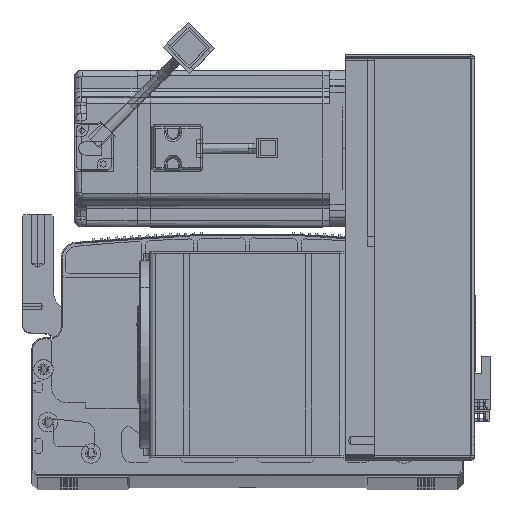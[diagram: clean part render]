
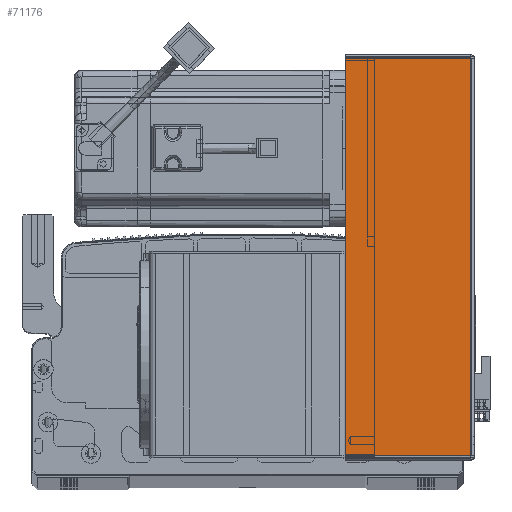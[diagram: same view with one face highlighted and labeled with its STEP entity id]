
A CAD part, top view. The second image highlights one B-rep face of the part: STEP entity #71176.
In plain terms, the highlighted planar face has unit normal (0, 0, 1) as drawn and (0, -1, 0) by its records, which use the part's own axes.
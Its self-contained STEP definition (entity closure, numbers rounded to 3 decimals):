
#68 = AXIS2_PLACEMENT_3D ( 'NONE', #84644, #45195, #20333 ) ;
#3171 = ORIENTED_EDGE ( 'NONE', *, *, #100996, .T. ) ;
#3195 = DIRECTION ( 'NONE',  ( 0., 0., 1. ) ) ;
#3884 = VERTEX_POINT ( 'NONE', #29059 ) ;
#9033 = EDGE_CURVE ( 'NONE', #39206, #18107, #48706, .T. ) ;
#15748 = CARTESIAN_POINT ( 'NONE',  ( 0., -1.5, -0.707 ) ) ;
#18107 = VERTEX_POINT ( 'NONE', #62029 ) ;
#19014 = ORIENTED_EDGE ( 'NONE', *, *, #9033, .F. ) ;
#20333 = DIRECTION ( 'NONE',  ( -1., 0., 0. ) ) ;
#23797 = DIRECTION ( 'NONE',  ( 1., 0., 0. ) ) ;
#25110 = DIRECTION ( 'NONE',  ( 1., 0., 0. ) ) ;
#27486 = LINE ( 'NONE', #56683, #45040 ) ;
#28062 = PLANE ( 'NONE',  #68 ) ;
#29059 = CARTESIAN_POINT ( 'NONE',  ( 64.5, -1.5, -203.293 ) ) ;
#32406 = LINE ( 'NONE', #56174, #62456 ) ;
#34433 = EDGE_CURVE ( 'NONE', #35962, #39206, #53545, .T. ) ;
#35962 = VERTEX_POINT ( 'NONE', #57520 ) ;
#39206 = VERTEX_POINT ( 'NONE', #52824 ) ;
#41572 = ORIENTED_EDGE ( 'NONE', *, *, #82913, .T. ) ;
#43106 = CARTESIAN_POINT ( 'NONE',  ( 0.737, -1.5, 0. ) ) ;
#45040 = VECTOR ( 'NONE', #25110, 1000. ) ;
#45195 = DIRECTION ( 'NONE',  ( 0., 1., 0. ) ) ;
#46177 = VECTOR ( 'NONE', #23797, 1000. ) ;
#48303 = ORIENTED_EDGE ( 'NONE', *, *, #34433, .F. ) ;
#48706 = LINE ( 'NONE', #15748, #46177 ) ;
#50987 = EDGE_LOOP ( 'NONE', ( #48303, #3171, #41572, #19014 ) ) ;
#52251 = VECTOR ( 'NONE', #3195, 1000. ) ;
#52824 = CARTESIAN_POINT ( 'NONE',  ( 0.737, -1.5, -0.707 ) ) ;
#53545 = LINE ( 'NONE', #43106, #52251 ) ;
#56174 = CARTESIAN_POINT ( 'NONE',  ( 64.5, -1.5, 0. ) ) ;
#56683 = CARTESIAN_POINT ( 'NONE',  ( 0., -1.5, -203.293 ) ) ;
#57520 = CARTESIAN_POINT ( 'NONE',  ( 0.737, -1.5, -203.293 ) ) ;
#62029 = CARTESIAN_POINT ( 'NONE',  ( 64.5, -1.5, -0.707 ) ) ;
#62456 = VECTOR ( 'NONE', #89272, 1000. ) ;
#63578 = FACE_OUTER_BOUND ( 'NONE', #50987, .T. ) ;
#71176 = ADVANCED_FACE ( 'NONE', ( #63578 ), #28062, .F. ) ;
#82913 = EDGE_CURVE ( 'NONE', #3884, #18107, #32406, .T. ) ;
#84644 = CARTESIAN_POINT ( 'NONE',  ( 0., -1.5, 0. ) ) ;
#89272 = DIRECTION ( 'NONE',  ( 0., 0., 1. ) ) ;
#100996 = EDGE_CURVE ( 'NONE', #35962, #3884, #27486, .T. ) ;
